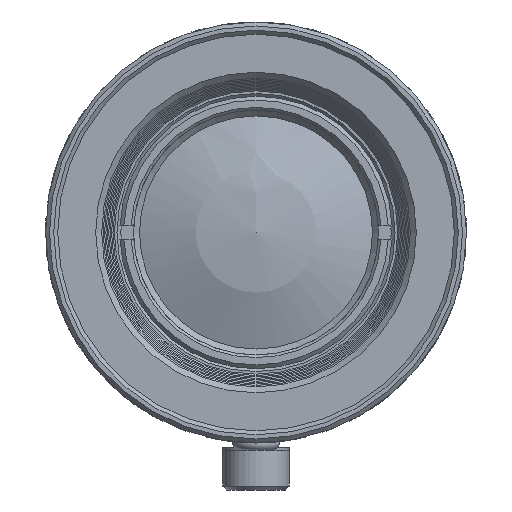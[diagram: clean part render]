
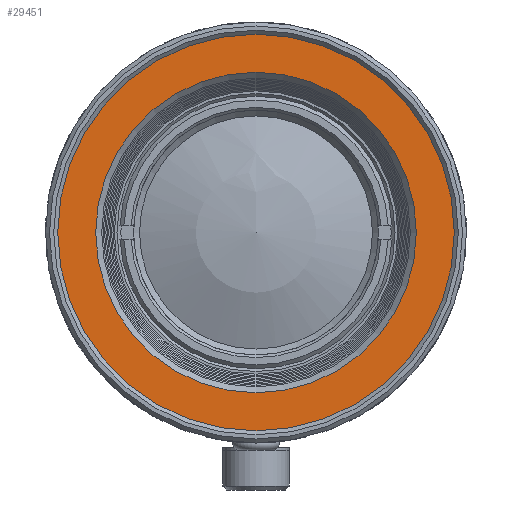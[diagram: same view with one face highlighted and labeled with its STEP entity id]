
A CAD part, front view. The second image highlights one B-rep face of the part: STEP entity #29451.
In plain terms, the highlighted planar face has unit normal (0, -1, 0).
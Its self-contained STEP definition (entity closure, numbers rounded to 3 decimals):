
#1047=PLANE('',#31324);
#2833=CIRCLE('',#31316,12.107);
#2838=CIRCLE('',#31325,15.25);
#8635=ORIENTED_EDGE('',*,*,#11697,.F.);
#8636=ORIENTED_EDGE('',*,*,#11702,.T.);
#11697=EDGE_CURVE('',#13786,#13786,#2833,.F.);
#11702=EDGE_CURVE('',#13789,#13789,#2838,.T.);
#13786=VERTEX_POINT('',#55183);
#13789=VERTEX_POINT('',#55195);
#17649=EDGE_LOOP('',(#8635));
#17650=EDGE_LOOP('',(#8636));
#19228=FACE_BOUND('',#17649,.T.);
#19229=FACE_BOUND('',#17650,.T.);
#29451=ADVANCED_FACE('',(#19228,#19229),#1047,.F.);
#31316=AXIS2_PLACEMENT_3D('',#55182,#36127,#36128);
#31324=AXIS2_PLACEMENT_3D('',#55193,#36143,#36144);
#31325=AXIS2_PLACEMENT_3D('',#55194,#36145,#36146);
#36127=DIRECTION('',(0.,1.,0.));
#36128=DIRECTION('',(0.,0.,1.));
#36143=DIRECTION('',(0.,1.,0.));
#36144=DIRECTION('',(0.,0.,1.));
#36145=DIRECTION('',(0.,-1.,0.));
#36146=DIRECTION('',(0.,0.,-1.));
#55182=CARTESIAN_POINT('',(0.,-72.2,0.));
#55183=CARTESIAN_POINT('',(0.,-72.2,12.107));
#55193=CARTESIAN_POINT('',(0.,-72.2,15.25));
#55194=CARTESIAN_POINT('',(0.,-72.2,0.));
#55195=CARTESIAN_POINT('',(0.,-72.2,-15.25));
